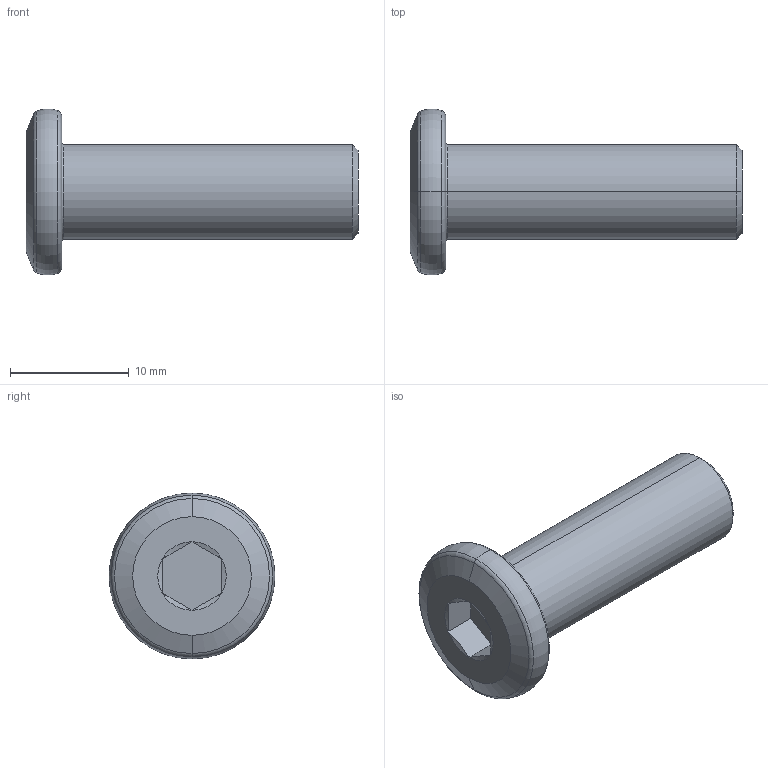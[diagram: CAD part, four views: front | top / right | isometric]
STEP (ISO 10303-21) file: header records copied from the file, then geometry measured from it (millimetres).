
FILE_DESCRIPTION (( 'STEP AP203' ), '1' );
FILE_NAME ('LGD-304D-M8x25.STEP', '2026-08-13T08:23:27', ( '' ), ( '' ), 'SwSTEP 2.0', 'SolidWorks 2020', '' );
FILE_SCHEMA (( 'CONFIG_CONTROL_DESIGN' ));
Length unit declared in the file: millimetre
Products named in the file (1): LGD-304D-M8x25
Bounding box: 28 x 14 x 14 mm (x, y, z)
Volume: 1615.1 mm3; surface area: 1052.4 mm2
Topology: 1 solids, 1 shells, 30 faces, 56 edges, 30 vertices
Faces by surface type: cone 10, plane 10, torus 8, cylinder 2
Entity records: 827 total; most frequent: DIRECTION 144, CARTESIAN_POINT 143, ORIENTED_EDGE 112, AXIS2_PLACEMENT_3D 63, EDGE_CURVE 56, CIRCLE 32, EDGE_LOOP 32, FACE_OUTER_BOUND 30
